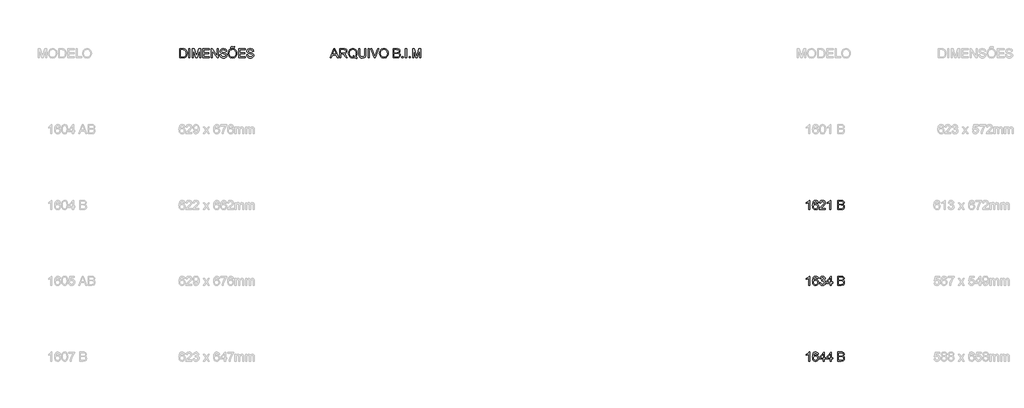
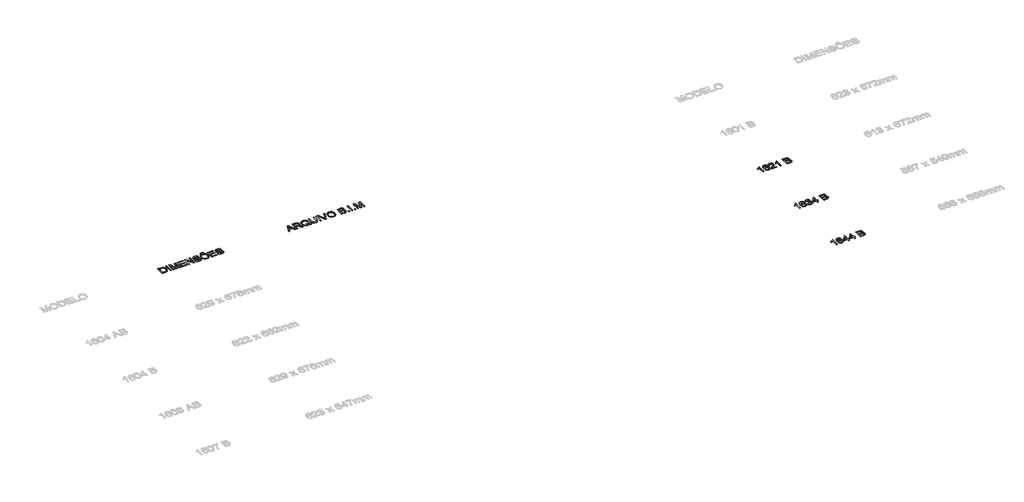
# One storey, part 33 of 39: 5 proxies.
"""IFC4 building model written with IfcOpenShell, lengths in millimetres."""

from ifc_helpers import new_model, si_unit, origin, origin_with_axes, place, context, project, spatial, polyline, outline, extrude, element, save

model = new_model("IFC4")

# Units and contexts
model_context = context("Model", 3, world=origin())
ifc_project = project(units=[si_unit("LENGTHUNIT", "METRE", prefix="MILLI")], contexts=[model_context])

# Site, building, storey
site = spatial("IfcSite", under=ifc_project)
building = spatial("IfcBuilding", under=site)
storey = spatial("IfcBuildingStorey", under=building, Name="Marelli - Linha PROFIT - Planta Baixa", Elevation=0.0)

# Proxies
placement = place(None, origin())
element("IfcBuildingElementProxy", 1, Name="300mm Arial", ObjectType="300mm Arial", at=placement, inside=storey, context=model_context, shape_type="SweptSolid", body=[
    extrude(outline(polyline([(-4550.1401811, 9219.4336799), (-4587.8112974, 9219.4336799), (-4587.8112974, 9454.2895457), (-4623.4958509, 9428.8688998), (-4663.15353, 9409.8494006), (-4663.15353, 9445.4603778), (-4633.5666205, 9461.5552151), (-4607.9344425, 9480.7034729), (-4587.7285239, 9501.0657413), (-4574.4203928, 9520.8026104), (-4550.1401811, 9520.8026104), (-4550.1401811, 9219.4336799)])), origin_with_axes(), (0.0, 0.0, 1.0), 10.0),
    extrude(outline(polyline([(-4267.6068088, 9440.7514882), (-4305.2779251, 9436.0425987), (-4311.347978, 9454.7126099), (-4319.5517465, 9467.4597211), (-4336.6398652, 9479.2135508), (-4357.2964392, 9483.1314941), (-4374.8076222, 9480.8506257), (-4391.2887356, 9474.0080206), (-4405.4429953, 9459.5962434), (-4417.003687, 9439.7582068), (-4424.8119824, 9411.6980077), (-4427.7090531, 9372.6197427), (-4412.5983001, 9390.2504873), (-4394.4893089, 9402.6757017), (-4374.3937549, 9410.0425387), (-4353.3233137, 9412.498151), (-4335.2235195, 9410.8196894), (-4318.5216769, 9405.7843046), (-4303.2177859, 9397.3919966), (-4289.3118465, 9385.6427654), (-4277.7557533, 9371.2355867), (-4269.5014011, 9354.8694365), (-4264.5487897, 9336.5443146), (-4262.8979192, 9316.2602211), (-4266.0065221, 9289.2852738), (-4275.3323307, 9264.2784951), (-4290.1027928, 9243.0700981), (-4309.5453562, 9227.4902956), (-4332.7771042, 9217.9161667), (-4358.91512, 9214.7247904), (-4381.3720165, 9216.8401119), (-4401.6538108, 9223.1860763), (-4419.7605027, 9233.7626836), (-4435.6920924, 9248.5699339), (-4448.6806261, 9268.2332266), (-4457.9581501, 9293.377961), (-4463.5246646, 9324.0041371), (-4465.3801694, 9360.1117549), (-4463.3200302, 9400.5925699), (-4457.1396127, 9435.1412878), (-4446.8389168, 9463.7579085), (-4432.4179426, 9486.442432), (-4416.7875563, 9501.4750101), (-4398.6647696, 9512.2125658), (-4378.0495823, 9518.6550992), (-4354.9419944, 9520.8026104), (-4321.8877972, 9515.4867156), (-4295.4186876, 9499.5390311), (-4276.8774351, 9474.2103557), (-4267.6068088, 9440.7514882)]), holes=[polyline([(-4427.7090531, 9316.8488323), (-4425.5293523, 9300.1561867), (-4418.9902498, 9284.2176993), (-4408.8367067, 9270.514095), (-4395.8136841, 9260.5260988), (-4380.0959259, 9254.4284547), (-4361.8581759, 9252.3959067), (-4336.9985501, 9256.6081555), (-4317.4548191, 9269.2449021), (-4304.7904814, 9289.1105298), (-4300.5690355, 9315.0094223), (-4304.7352991, 9339.8690481), (-4317.2340899, 9358.8241679), (-4337.1089147, 9370.826318), (-4363.4032803, 9374.8270347), (-4388.2261179, 9370.826318), (-4408.9838595, 9358.8241679), (-4423.0277547, 9340.3289006), (-4427.7090531, 9316.8488323)])]), origin_with_axes(), (0.0, 0.0, 1.0), 10.0),
    extrude(outline(polyline([(-4036.8712214, 9257.1047962), (-4036.8712214, 9219.4336799), (-4234.644582, 9219.4336799), (-4230.5978801, 9245.4061488), (-4221.3088597, 9265.7040379), (-4207.71562, 9285.3949217), (-4188.0523273, 9306.0055104), (-4160.5531482, 9329.0625145), (-4119.9021877, 9365.1701323), (-4095.5116114, 9391.8231829), (-4083.3163233, 9413.4546442), (-4079.2512273, 9434.4974943), (-4083.086397, 9453.3606436), (-4094.5919064, 9469.0416137), (-4112.2778334, 9479.609024), (-4134.6542557, 9483.1314941), (-4158.1527182, 9479.6917974), (-4176.4088622, 9469.3727075), (-4188.1902831, 9452.9835646), (-4192.2645762, 9431.3337092), (-4229.9356925, 9436.0425987), (-4220.8030219, 9472.4813103), (-4212.2566633, 9487.0172476), (-4201.0569559, 9499.0975727), (-4187.4614169, 9508.5935267), (-4171.7275638, 9515.376351), (-4133.8449153, 9520.8026104), (-4113.6550916, 9519.2942942), (-4095.6863554, 9514.7693457), (-4079.9387067, 9507.2277648), (-4066.4121456, 9496.6695515), (-4055.5481304, 9483.8764551), (-4047.7881196, 9469.6302249), (-4043.1321131, 9453.9308607), (-4041.5801109, 9436.7783627), (-4043.253974, 9418.761342), (-4048.2755633, 9401.057021), (-4057.1875046, 9383.0491973), (-4070.532424, 9364.1216686), (-4091.8052003, 9341.5245171), (-4124.5007127, 9312.5078247), (-4167.8372117, 9276.2714482), (-4184.8333599, 9257.1047962), (-4036.8712214, 9257.1047962)])), origin_with_axes(), (0.0, 0.0, 1.0), 10.0),
    extrude(outline(polyline([(-3857.933419, 9219.4336799), (-3895.6045353, 9219.4336799), (-3895.6045353, 9454.2895457), (-3931.2890888, 9428.8688998), (-3970.9467679, 9409.8494006), (-3970.9467679, 9445.4603778), (-3941.3598584, 9461.5552151), (-3915.7276804, 9480.7034729), (-3895.5217618, 9501.0657413), (-3882.2136306, 9520.8026104), (-3857.933419, 9520.8026104), (-3857.933419, 9219.4336799)])), origin_with_axes(), (0.0, 0.0, 1.0), 10.0),
    extrude(outline(polyline([(-3636.6156107, 9219.4336799), (-3636.6156107, 9520.8026104), (-3521.615699, 9520.8026104), (-3489.9870444, 9518.5861214), (-3465.2929655, 9511.9366543), (-3446.3654368, 9500.6886623), (-3432.0364331, 9484.6765985), (-3423.0141272, 9465.8410403), (-3420.0066919, 9446.1225654), (-3422.5358806, 9427.9767859), (-3430.1234468, 9410.9162584), (-3442.8245726, 9395.9894465), (-3460.6944406, 9384.2448138), (-3439.3480878, 9373.0979893), (-3423.5751472, 9356.1386293), (-3413.8354714, 9334.4887739), (-3410.5889128, 9309.2704632), (-3412.8054018, 9288.2552042), (-3419.4548689, 9268.7666555), (-3429.3784857, 9252.1935716), (-3441.417424, 9239.9247071), (-3456.160295, 9231.0403569), (-3474.1957098, 9224.6208161), (-3522.4986157, 9219.4336799), (-3636.6156107, 9219.4336799)]), holes=[polyline([(-3598.9444943, 9398.3714824), (-3530.1505612, 9398.3714824), (-3489.9778474, 9401.6088439), (-3475.9155581, 9407.1914532), (-3465.8080003, 9415.5515716), (-3459.7103562, 9426.5604403), (-3457.6778082, 9440.0893006), (-3459.5724005, 9453.2226879), (-3465.2561773, 9464.6638179), (-3474.4716213, 9473.5941533), (-3486.961215, 9479.1951567), (-3535.3744856, 9483.1314941), (-3598.9444943, 9483.1314941), (-3598.9444943, 9398.3714824)]), polyline([(-3598.9444943, 9257.1047962), (-3521.6892754, 9257.1047962), (-3493.7302437, 9258.5763242), (-3470.0754314, 9266.7800927), (-3454.4036584, 9283.5187235), (-3449.7959365, 9295.3461296), (-3448.2600291, 9308.9025812), (-3450.0626509, 9324.6479306), (-3455.4705162, 9338.185988), (-3464.9158865, 9348.7717924), (-3478.8310229, 9355.6603827), (-3498.5403008, 9359.4403702), (-3525.3680953, 9360.7003661), (-3598.9444943, 9360.7003661), (-3598.9444943, 9257.1047962)])]), origin_with_axes(), (0.0, 0.0, 1.0), 10.0),
])
element("IfcBuildingElementProxy", 2, Name="300mm Arial", ObjectType="300mm Arial", at=placement, inside=storey, context=model_context, shape_type="SweptSolid", body=[
    extrude(outline(polyline([(-4550.1401811, 6719.4336799), (-4587.8112974, 6719.4336799), (-4587.8112974, 6954.2895457), (-4623.4958509, 6928.8688998), (-4663.15353, 6909.8494006), (-4663.15353, 6945.4603778), (-4633.5666205, 6961.5552151), (-4607.9344425, 6980.7034729), (-4587.7285239, 7001.0657413), (-4574.4203928, 7020.8026104), (-4550.1401811, 7020.8026104), (-4550.1401811, 6719.4336799)])), origin_with_axes(), (0.0, 0.0, 1.0), 10.0),
    extrude(outline(polyline([(-4267.6068088, 6940.7514882), (-4305.2779251, 6936.0425987), (-4311.347978, 6954.7126099), (-4319.5517465, 6967.4597211), (-4336.6398652, 6979.2135508), (-4357.2964392, 6983.1314941), (-4374.8076222, 6980.8506257), (-4391.2887356, 6974.0080206), (-4405.4429953, 6959.5962434), (-4417.003687, 6939.7582068), (-4424.8119824, 6911.6980077), (-4427.7090531, 6872.6197427), (-4412.5983001, 6890.2504873), (-4394.4893089, 6902.6757017), (-4374.3937549, 6910.0425387), (-4353.3233137, 6912.498151), (-4335.2235195, 6910.8196894), (-4318.5216769, 6905.7843046), (-4303.2177859, 6897.3919966), (-4289.3118465, 6885.6427654), (-4277.7557533, 6871.2355867), (-4269.5014011, 6854.8694365), (-4264.5487897, 6836.5443146), (-4262.8979192, 6816.2602211), (-4266.0065221, 6789.2852738), (-4275.3323307, 6764.2784951), (-4290.1027928, 6743.0700981), (-4309.5453562, 6727.4902956), (-4332.7771042, 6717.9161667), (-4358.91512, 6714.7247904), (-4381.3720165, 6716.8401119), (-4401.6538108, 6723.1860763), (-4419.7605027, 6733.7626836), (-4435.6920924, 6748.5699339), (-4448.6806261, 6768.2332266), (-4457.9581501, 6793.377961), (-4463.5246646, 6824.0041371), (-4465.3801694, 6860.1117549), (-4463.3200302, 6900.5925699), (-4457.1396127, 6935.1412878), (-4446.8389168, 6963.7579085), (-4432.4179426, 6986.442432), (-4416.7875563, 7001.4750101), (-4398.6647696, 7012.2125658), (-4378.0495823, 7018.6550992), (-4354.9419944, 7020.8026104), (-4321.8877972, 7015.4867156), (-4295.4186876, 6999.5390311), (-4276.8774351, 6974.2103557), (-4267.6068088, 6940.7514882)]), holes=[polyline([(-4427.7090531, 6816.8488323), (-4425.5293523, 6800.1561867), (-4418.9902498, 6784.2176993), (-4408.8367067, 6770.514095), (-4395.8136841, 6760.5260988), (-4380.0959259, 6754.4284547), (-4361.8581759, 6752.3959067), (-4336.9985501, 6756.6081555), (-4317.4548191, 6769.2449021), (-4304.7904814, 6789.1105298), (-4300.5690355, 6815.0094223), (-4304.7352991, 6839.8690481), (-4317.2340899, 6858.8241679), (-4337.1089147, 6870.826318), (-4363.4032803, 6874.8270347), (-4388.2261179, 6870.826318), (-4408.9838595, 6858.8241679), (-4423.0277547, 6840.3289006), (-4427.7090531, 6816.8488323)])]), origin_with_axes(), (0.0, 0.0, 1.0), 10.0),
    extrude(outline(polyline([(-4229.9356925, 6799.4848021), (-4192.2645762, 6804.1936916), (-4183.8308814, 6780.5204852), (-4171.4792434, 6764.5360125), (-4154.6026569, 6755.4309332), (-4132.5941166, 6752.3959067), (-4106.7688005, 6756.5713673), (-4086.8295964, 6769.0977493), (-4074.0824852, 6787.7861546), (-4069.8334482, 6810.4476855), (-4074.045697, 6831.9595852), (-4086.6824436, 6849.4063888), (-4105.8123073, 6860.9670805), (-4129.5039078, 6864.8206444), (-4155.917835, 6860.7003661), (-4151.7239803, 6898.3714824), (-4145.6907156, 6897.930024), (-4123.1211552, 6900.6339567), (-4102.9428277, 6908.7457546), (-4088.7057945, 6922.4677531), (-4083.9601168, 6942.002287), (-4087.3998134, 6958.2718683), (-4097.7189034, 6971.4696348), (-4113.4642528, 6980.2160293), (-4133.1827277, 6983.1314941), (-4152.9379909, 6980.1884381), (-4169.0880105, 6971.3592702), (-4180.8786284, 6956.6439904), (-4187.5556866, 6936.0425987), (-4225.2268029, 6940.7514882), (-4214.1351608, 6974.5782377), (-4194.3982917, 6999.8333367), (-4167.3957533, 7015.5602919), (-4134.5071029, 7020.8026104), (-4110.8246995, 7018.2182394), (-4089.0736765, 7010.4651263), (-4070.7347591, 6998.23305), (-4057.2886721, 6982.2117891), (-4049.0389184, 6963.75331), (-4046.2890005, 6944.209579), (-4048.9009626, 6925.9994202), (-4056.7368491, 6909.4815186), (-4069.6862954, 6895.4100323), (-4087.6389367, 6884.5391194), (-4064.0577008, 6875.0109757), (-4046.5833061, 6858.7873797), (-4035.7675754, 6836.7512482), (-4032.1623319, 6809.7854979), (-4033.9649536, 6790.6740283), (-4039.372819, 6773.0708748), (-4048.3859279, 6756.9760375), (-4061.0042803, 6742.3895164), (-4076.3771492, 6730.2861988), (-4093.6538074, 6721.6409719), (-4112.8342549, 6716.4538358), (-4133.9184917, 6714.7247904), (-4152.9747791, 6716.2009169), (-4170.3388093, 6720.6292964), (-4186.0105823, 6728.0099289), (-4199.9900981, 6738.3428145), (-4211.7117381, 6751.0209477), (-4220.6098839, 6765.4373234), (-4226.6845353, 6781.5919415), (-4229.9356925, 6799.4848021)])), origin_with_axes(), (0.0, 0.0, 1.0), 10.0),
    extrude(outline(polyline([(-3876.7689771, 6719.4336799), (-3876.7689771, 6790.067023), (-4013.3267737, 6790.067023), (-4013.3267737, 6827.7381393), (-3867.351198, 7016.0937208), (-3839.0978608, 7016.0937208), (-3839.0978608, 6827.7381393), (-3801.4267445, 6827.7381393), (-3801.4267445, 6790.067023), (-3839.0978608, 6790.067023), (-3839.0978608, 6719.4336799), (-3876.7689771, 6719.4336799)]), holes=[polyline([(-3876.7689771, 6827.7381393), (-3876.7689771, 6944.1360026), (-3966.9736423, 6827.7381393), (-3876.7689771, 6827.7381393)])]), origin_with_axes(), (0.0, 0.0, 1.0), 10.0),
    extrude(outline(polyline([(-3636.6156107, 6719.4336799), (-3636.6156107, 7020.8026104), (-3521.615699, 7020.8026104), (-3489.9870444, 7018.5861214), (-3465.2929655, 7011.9366543), (-3446.3654368, 7000.6886623), (-3432.0364331, 6984.6765985), (-3423.0141272, 6965.8410403), (-3420.0066919, 6946.1225654), (-3422.5358806, 6927.9767859), (-3430.1234468, 6910.9162584), (-3442.8245726, 6895.9894465), (-3460.6944406, 6884.2448138), (-3439.3480878, 6873.0979893), (-3423.5751472, 6856.1386293), (-3413.8354714, 6834.4887739), (-3410.5889128, 6809.2704632), (-3412.8054018, 6788.2552042), (-3419.4548689, 6768.7666555), (-3429.3784857, 6752.1935716), (-3441.417424, 6739.9247071), (-3456.160295, 6731.0403569), (-3474.1957098, 6724.6208161), (-3522.4986157, 6719.4336799), (-3636.6156107, 6719.4336799)]), holes=[polyline([(-3598.9444943, 6898.3714824), (-3530.1505612, 6898.3714824), (-3489.9778474, 6901.6088439), (-3475.9155581, 6907.1914532), (-3465.8080003, 6915.5515716), (-3459.7103562, 6926.5604403), (-3457.6778082, 6940.0893006), (-3459.5724005, 6953.2226879), (-3465.2561773, 6964.6638179), (-3474.4716213, 6973.5941533), (-3486.961215, 6979.1951567), (-3535.3744856, 6983.1314941), (-3598.9444943, 6983.1314941), (-3598.9444943, 6898.3714824)]), polyline([(-3598.9444943, 6757.1047962), (-3521.6892754, 6757.1047962), (-3493.7302437, 6758.5763242), (-3470.0754314, 6766.7800927), (-3454.4036584, 6783.5187235), (-3449.7959365, 6795.3461296), (-3448.2600291, 6808.9025812), (-3450.0626509, 6824.6479306), (-3455.4705162, 6838.185988), (-3464.9158865, 6848.7717924), (-3478.8310229, 6855.6603827), (-3498.5403008, 6859.4403702), (-3525.3680953, 6860.7003661), (-3598.9444943, 6860.7003661), (-3598.9444943, 6757.1047962)])]), origin_with_axes(), (0.0, 0.0, 1.0), 10.0),
])
element("IfcBuildingElementProxy", 3, Name="300mm Arial", ObjectType="300mm Arial", at=placement, inside=storey, context=model_context, shape_type="SweptSolid", body=[
    extrude(outline(polyline([(-4550.1401811, 4219.4336799), (-4587.8112974, 4219.4336799), (-4587.8112974, 4454.2895457), (-4623.4958509, 4428.8688998), (-4663.15353, 4409.8494006), (-4663.15353, 4445.4603778), (-4633.5666205, 4461.5552151), (-4607.9344425, 4480.7034729), (-4587.7285239, 4501.0657413), (-4574.4203928, 4520.8026104), (-4550.1401811, 4520.8026104), (-4550.1401811, 4219.4336799)])), origin_with_axes(), (0.0, 0.0, 1.0), 10.0),
    extrude(outline(polyline([(-4267.6068088, 4440.7514882), (-4305.2779251, 4436.0425987), (-4311.347978, 4454.7126099), (-4319.5517465, 4467.4597211), (-4336.6398652, 4479.2135508), (-4357.2964392, 4483.1314941), (-4374.8076222, 4480.8506257), (-4391.2887356, 4474.0080206), (-4405.4429953, 4459.5962434), (-4417.003687, 4439.7582068), (-4424.8119824, 4411.6980077), (-4427.7090531, 4372.6197427), (-4412.5983001, 4390.2504873), (-4394.4893089, 4402.6757017), (-4374.3937549, 4410.0425387), (-4353.3233137, 4412.498151), (-4335.2235195, 4410.8196894), (-4318.5216769, 4405.7843046), (-4303.2177859, 4397.3919966), (-4289.3118465, 4385.6427654), (-4277.7557533, 4371.2355867), (-4269.5014011, 4354.8694365), (-4264.5487897, 4336.5443146), (-4262.8979192, 4316.2602211), (-4266.0065221, 4289.2852738), (-4275.3323307, 4264.2784951), (-4290.1027928, 4243.0700981), (-4309.5453562, 4227.4902956), (-4332.7771042, 4217.9161667), (-4358.91512, 4214.7247904), (-4381.3720165, 4216.8401119), (-4401.6538108, 4223.1860763), (-4419.7605027, 4233.7626836), (-4435.6920924, 4248.5699339), (-4448.6806261, 4268.2332266), (-4457.9581501, 4293.377961), (-4463.5246646, 4324.0041371), (-4465.3801694, 4360.1117549), (-4463.3200302, 4400.5925699), (-4457.1396127, 4435.1412878), (-4446.8389168, 4463.7579085), (-4432.4179426, 4486.442432), (-4416.7875563, 4501.4750101), (-4398.6647696, 4512.2125658), (-4378.0495823, 4518.6550992), (-4354.9419944, 4520.8026104), (-4321.8877972, 4515.4867156), (-4295.4186876, 4499.5390311), (-4276.8774351, 4474.2103557), (-4267.6068088, 4440.7514882)]), holes=[polyline([(-4427.7090531, 4316.8488323), (-4425.5293523, 4300.1561867), (-4418.9902498, 4284.2176993), (-4408.8367067, 4270.514095), (-4395.8136841, 4260.5260988), (-4380.0959259, 4254.4284547), (-4361.8581759, 4252.3959067), (-4336.9985501, 4256.6081555), (-4317.4548191, 4269.2449021), (-4304.7904814, 4289.1105298), (-4300.5690355, 4315.0094223), (-4304.7352991, 4339.8690481), (-4317.2340899, 4358.8241679), (-4337.1089147, 4370.826318), (-4363.4032803, 4374.8270347), (-4388.2261179, 4370.826318), (-4408.9838595, 4358.8241679), (-4423.0277547, 4340.3289006), (-4427.7090531, 4316.8488323)])]), origin_with_axes(), (0.0, 0.0, 1.0), 10.0),
    extrude(outline(polyline([(-4107.5045645, 4219.4336799), (-4107.5045645, 4290.067023), (-4244.0623611, 4290.067023), (-4244.0623611, 4327.7381393), (-4098.0867854, 4516.0937208), (-4069.8334482, 4516.0937208), (-4069.8334482, 4327.7381393), (-4032.1623319, 4327.7381393), (-4032.1623319, 4290.067023), (-4069.8334482, 4290.067023), (-4069.8334482, 4219.4336799), (-4107.5045645, 4219.4336799)]), holes=[polyline([(-4107.5045645, 4327.7381393), (-4107.5045645, 4444.1360026), (-4197.7092297, 4327.7381393), (-4107.5045645, 4327.7381393)])]), origin_with_axes(), (0.0, 0.0, 1.0), 10.0),
    extrude(outline(polyline([(-3876.7689771, 4219.4336799), (-3876.7689771, 4290.067023), (-4013.3267737, 4290.067023), (-4013.3267737, 4327.7381393), (-3867.351198, 4516.0937208), (-3839.0978608, 4516.0937208), (-3839.0978608, 4327.7381393), (-3801.4267445, 4327.7381393), (-3801.4267445, 4290.067023), (-3839.0978608, 4290.067023), (-3839.0978608, 4219.4336799), (-3876.7689771, 4219.4336799)]), holes=[polyline([(-3876.7689771, 4327.7381393), (-3876.7689771, 4444.1360026), (-3966.9736423, 4327.7381393), (-3876.7689771, 4327.7381393)])]), origin_with_axes(), (0.0, 0.0, 1.0), 10.0),
    extrude(outline(polyline([(-3636.6156107, 4219.4336799), (-3636.6156107, 4520.8026104), (-3521.615699, 4520.8026104), (-3489.9870444, 4518.5861214), (-3465.2929655, 4511.9366543), (-3446.3654368, 4500.6886623), (-3432.0364331, 4484.6765985), (-3423.0141272, 4465.8410403), (-3420.0066919, 4446.1225654), (-3422.5358806, 4427.9767859), (-3430.1234468, 4410.9162584), (-3442.8245726, 4395.9894465), (-3460.6944406, 4384.2448138), (-3439.3480878, 4373.0979893), (-3423.5751472, 4356.1386293), (-3413.8354714, 4334.4887739), (-3410.5889128, 4309.2704632), (-3412.8054018, 4288.2552042), (-3419.4548689, 4268.7666555), (-3429.3784857, 4252.1935716), (-3441.417424, 4239.9247071), (-3456.160295, 4231.0403569), (-3474.1957098, 4224.6208161), (-3522.4986157, 4219.4336799), (-3636.6156107, 4219.4336799)]), holes=[polyline([(-3598.9444943, 4398.3714824), (-3530.1505612, 4398.3714824), (-3489.9778474, 4401.6088439), (-3475.9155581, 4407.1914532), (-3465.8080003, 4415.5515716), (-3459.7103562, 4426.5604403), (-3457.6778082, 4440.0893006), (-3459.5724005, 4453.2226879), (-3465.2561773, 4464.6638179), (-3474.4716213, 4473.5941533), (-3486.961215, 4479.1951567), (-3535.3744856, 4483.1314941), (-3598.9444943, 4483.1314941), (-3598.9444943, 4398.3714824)]), polyline([(-3598.9444943, 4257.1047962), (-3521.6892754, 4257.1047962), (-3493.7302437, 4258.5763242), (-3470.0754314, 4266.7800927), (-3454.4036584, 4283.5187235), (-3449.7959365, 4295.3461296), (-3448.2600291, 4308.9025812), (-3450.0626509, 4324.6479306), (-3455.4705162, 4338.185988), (-3464.9158865, 4348.7717924), (-3478.8310229, 4355.6603827), (-3498.5403008, 4359.4403702), (-3525.3680953, 4360.7003661), (-3598.9444943, 4360.7003661), (-3598.9444943, 4257.1047962)])]), origin_with_axes(), (0.0, 0.0, 1.0), 10.0),
])
element("IfcBuildingElementProxy", 4, Name="300mm Arial", ObjectType="300mm Arial", at=placement, inside=storey, context=model_context, shape_type="SweptSolid", body=[
    extrude(outline(polyline([(-25315.334731, 14219.4336799), (-25315.334731, 14520.8026104), (-25211.3712792, 14520.8026104), (-25157.5869315, 14516.4616028), (-25133.5642372, 14508.0922874), (-25113.2939393, 14494.9037179), (-25092.4534243, 14471.9478814), (-25077.6093858, 14443.4002386), (-25068.7250356, 14409.8126124), (-25065.7635855, 14371.7368259), (-25067.7685424, 14339.3908015), (-25073.783413, 14310.9259321), (-25082.9436747, 14286.6917057), (-25094.3848047, 14267.0376101), (-25107.5549802, 14251.522187), (-25121.902378, 14239.7039779), (-25138.3742943, 14230.9391893), (-25157.9180253, 14224.5840279), (-25206.3680841, 14219.4336799), (-25315.334731, 14219.4336799)]), holes=[polyline([(-25277.6636147, 14257.1047962), (-25211.0033972, 14257.1047962), (-25183.4306417, 14258.4659596), (-25162.5165502, 14262.5494498), (-25146.7344127, 14269.1161434), (-25134.5575186, 14277.9269172), (-25121.4701166, 14294.2332866), (-25111.6384703, 14315.3405161), (-25105.4856439, 14341.3405761), (-25103.4347018, 14372.3254371), (-25107.4538126, 14413.3810678), (-25119.511145, 14443.6945442), (-25137.3258306, 14464.5166651), (-25158.6170011, 14477.0982294), (-25180.2852506, 14481.6231779), (-25212.0334668, 14483.1314941), (-25277.6636147, 14483.1314941), (-25277.6636147, 14257.1047962)])]), origin_with_axes(), (0.0, 0.0, 1.0), 10.0),
    extrude(outline(polyline([(-25009.2569111, 14219.4336799), (-25009.2569111, 14520.8026104), (-24971.5857948, 14520.8026104), (-24971.5857948, 14219.4336799), (-25009.2569111, 14219.4336799)])), origin_with_axes(), (0.0, 0.0, 1.0), 10.0),
    extrude(outline(polyline([(-24896.2435621, 14219.4336799), (-24896.2435621, 14520.8026104), (-24831.4227546, 14520.8026104), (-24769.7657322, 14308.3875464), (-24757.3313208, 14264.0209777), (-24743.8668397, 14312.0663663), (-24683.2398869, 14520.8026104), (-24618.4190794, 14520.8026104), (-24618.4190794, 14219.4336799), (-24656.0901957, 14219.4336799), (-24656.0901957, 14483.1314941), (-24731.8003103, 14219.4336799), (-24782.8623312, 14219.4336799), (-24858.5724458, 14483.1314941), (-24858.5724458, 14219.4336799), (-24896.2435621, 14219.4336799)])), origin_with_axes(), (0.0, 0.0, 1.0), 10.0),
    extrude(outline(polyline([(-24552.4946258, 14219.4336799), (-24552.4946258, 14520.8026104), (-24335.8857071, 14520.8026104), (-24335.8857071, 14483.1314941), (-24514.8235095, 14483.1314941), (-24514.8235095, 14393.6625928), (-24345.3034862, 14393.6625928), (-24345.3034862, 14355.9914765), (-24514.8235095, 14355.9914765), (-24514.8235095, 14257.1047962), (-24331.1768175, 14257.1047962), (-24331.1768175, 14219.4336799), (-24552.4946258, 14219.4336799)])), origin_with_axes(), (0.0, 0.0, 1.0), 10.0),
    extrude(outline(polyline([(-24274.6701431, 14219.4336799), (-24274.6701431, 14520.8026104), (-24234.3502764, 14520.8026104), (-24076.8967825, 14282.0471955), (-24076.8967825, 14520.8026104), (-24039.2256662, 14520.8026104), (-24039.2256662, 14219.4336799), (-24079.5455328, 14219.4336799), (-24236.9990268, 14458.2626712), (-24236.9990268, 14219.4336799), (-24274.6701431, 14219.4336799)])), origin_with_axes(), (0.0, 0.0, 1.0), 10.0),
    extrude(outline(polyline([(-23987.4278813, 14323.0292498), (-23949.7567649, 14323.0292498), (-23945.4341515, 14302.1243554), (-23937.6166591, 14285.3213453), (-23925.421371, 14271.9856229), (-23907.9653703, 14261.482592), (-23886.6282146, 14254.667578), (-23862.7894613, 14252.3959067), (-23841.8017935, 14254.115755), (-23823.4260878, 14259.2753), (-23808.536064, 14267.4422803), (-23798.0054419, 14278.1844346), (-23791.742251, 14290.5176784), (-23789.6545206, 14303.4579276), (-23791.2180191, 14316.067083), (-23795.9085146, 14326.9655871), (-23805.4366582, 14336.2638046), (-23821.5131014, 14344.0720999), (-23876.3643069, 14358.4562859), (-23912.3707572, 14367.9752325), (-23935.4093671, 14377.0343267), (-23954.1621518, 14389.7078614), (-23967.4518889, 14405.0669347), (-23975.3705489, 14422.7804528), (-23978.0101022, 14442.5173218), (-23974.7451495, 14464.5810445), (-23964.9502913, 14485.154845), (-23948.8830452, 14502.5924516), (-23926.8009284, 14515.2475923), (-23900.2950307, 14522.945523), (-23870.9564416, 14525.5114999), (-23839.1714372, 14522.8259614), (-23811.3595584, 14514.7693457), (-23788.5140865, 14501.5071997), (-23771.6283029, 14483.2050705), (-23760.9413309, 14461.0033921), (-23756.6922939, 14436.0425987), (-23794.3634102, 14436.0425987), (-23801.2795917, 14458.5201886), (-23815.7005659, 14474.7437846), (-23838.2333381, 14484.5662339), (-23869.4849136, 14487.8403836), (-23901.4722531, 14484.6030221), (-23923.4164141, 14474.8909374), (-23936.1083429, 14460.5987219), (-23940.3389859, 14443.6209678), (-23937.3407476, 14429.1448113), (-23928.3460328, 14417.5013461), (-23907.0824535, 14407.0902857), (-23866.8361632, 14396.458496), (-23825.302286, 14386.3601352), (-23800.1759457, 14377.5493615), (-23778.7008342, 14363.8825453), (-23763.71884, 14347.0151559), (-23754.9172633, 14327.131134), (-23751.9834043, 14304.4144208), (-23755.3587216, 14281.1918699), (-23765.4846736, 14259.3488764), (-23781.9473928, 14240.5501065), (-23804.3330123, 14226.460226), (-23831.2527773, 14217.6586493), (-23861.3179333, 14214.7247904), (-23898.2256945, 14217.8885756), (-23928.6035502, 14227.379931), (-23952.8009885, 14243.235645), (-23971.1674971, 14265.4925057), (-23982.958115, 14292.6054088), (-23987.4278813, 14323.0292498)])), origin_with_axes(), (0.0, 0.0, 1.0), 10.0),
    extrude(outline(polyline([(-23709.6033985, 14366.1450196), (-23707.0926039, 14401.4938808), (-23699.56022, 14432.786843), (-23687.0062469, 14460.0239063), (-23669.4306846, 14483.2050705), (-23647.8865953, 14501.7141334), (-23623.4270411, 14514.9348926), (-23596.0520222, 14522.8673481), (-23565.7615384, 14525.5114999), (-23526.232618, 14520.545093), (-23490.7871878, 14505.6458722), (-23461.3566282, 14481.8623012), (-23439.8723196, 14450.2428437), (-23426.7389324, 14412.31421), (-23422.3611367, 14369.6031104), (-23426.9688587, 14326.3217936), (-23440.7920246, 14287.859731), (-23463.0672794, 14256.1850913), (-23493.0312679, 14233.266043), (-23528.1731955, 14219.3601035), (-23565.9822676, 14214.7247904), (-23606.1181933, 14219.8475472), (-23641.7659586, 14235.2158175), (-23671.1229418, 14259.4408469), (-23692.3865211, 14291.1338808), (-23705.2991792, 14327.6001836), (-23709.6033985, 14366.1450196)]), holes=[polyline([(-23671.9322822, 14365.7771376), (-23670.0491862, 14340.8025487), (-23664.3998983, 14318.6330599), (-23654.9844185, 14299.2686714), (-23641.8027468, 14282.7093831), (-23625.7791866, 14269.4472372), (-23607.8380416, 14259.9742758), (-23587.9793116, 14254.290499), (-23566.2029968, 14252.3959067), (-23544.0542014, 14254.3088931), (-23523.9609467, 14260.0478522), (-23505.9232326, 14269.6127841), (-23489.9410592, 14283.0036887), (-23476.8559565, 14299.9124649), (-23467.5094545, 14320.0310115), (-23461.9015534, 14343.3593285), (-23460.032253, 14369.897416), (-23463.2328263, 14403.2459188), (-23472.8345464, 14432.0694731), (-23488.5890928, 14455.641512), (-23510.2481453, 14473.2354684), (-23536.376964, 14484.1891548), (-23565.5408092, 14487.8403836), (-23586.5606667, 14486.0814478), (-23606.063011, 14480.8046405), (-23624.047842, 14472.0099615), (-23640.5151598, 14459.697411), (-23654.2601508, 14443.2737792), (-23664.0780016, 14422.1458563), (-23669.968712, 14396.3136425), (-23671.9322822, 14365.7771376)])]), origin_with_axes(), (0.0, 0.0, 1.0), 10.0),
    extrude(outline(polyline([(-23634.2611659, 14539.6381685), (-23631.4100804, 14562.7963401), (-23622.5625184, 14580.7673756), (-23609.2267961, 14592.3004761), (-23592.616924, 14596.144843), (-23578.7109846, 14593.1098165), (-23562.4506004, 14584.0047372), (-23547.2202858, 14577.3092848), (-23539.2372465, 14581.0984694), (-23535.3744856, 14596.144843), (-23502.4122588, 14596.144843), (-23505.6956056, 14571.4231729), (-23514.3684237, 14553.7648371), (-23527.2718846, 14543.1698357), (-23543.2471603, 14539.6381685), (-23557.2450702, 14542.5076481), (-23573.0456019, 14551.1160868), (-23588.9381041, 14558.4737267), (-23597.9144248, 14553.6912607), (-23601.2989391, 14539.6381685), (-23634.2611659, 14539.6381685)])), origin_with_axes(), (0.0, 0.0, 1.0), 10.0),
    extrude(outline(polyline([(-23370.5633517, 14219.4336799), (-23370.5633517, 14520.8026104), (-23153.954433, 14520.8026104), (-23153.954433, 14483.1314941), (-23332.8922354, 14483.1314941), (-23332.8922354, 14393.6625928), (-23163.3722121, 14393.6625928), (-23163.3722121, 14355.9914765), (-23332.8922354, 14355.9914765), (-23332.8922354, 14257.1047962), (-23149.2455434, 14257.1047962), (-23149.2455434, 14219.4336799), (-23370.5633517, 14219.4336799)])), origin_with_axes(), (0.0, 0.0, 1.0), 10.0),
    extrude(outline(polyline([(-23106.8655376, 14323.0292498), (-23069.1944213, 14323.0292498), (-23064.8718078, 14302.1243554), (-23057.0543155, 14285.3213453), (-23044.8590273, 14271.9856229), (-23027.4030266, 14261.482592), (-23006.0658709, 14254.667578), (-22982.2271176, 14252.3959067), (-22961.2394498, 14254.115755), (-22942.8637441, 14259.2753), (-22927.9737204, 14267.4422803), (-22917.4430983, 14278.1844346), (-22911.1799073, 14290.5176784), (-22909.092177, 14303.4579276), (-22910.6556755, 14316.067083), (-22915.3461709, 14326.9655871), (-22924.8743146, 14336.2638046), (-22940.9507578, 14344.0720999), (-22995.8019633, 14358.4562859), (-23031.8084135, 14367.9752325), (-23054.8470235, 14377.0343267), (-23073.5998082, 14389.7078614), (-23086.8895453, 14405.0669347), (-23094.8082052, 14422.7804528), (-23097.4477585, 14442.5173218), (-23094.1828058, 14464.5810445), (-23084.3879477, 14485.154845), (-23068.3207016, 14502.5924516), (-23046.2385848, 14515.2475923), (-23019.732687, 14522.945523), (-22990.3940979, 14525.5114999), (-22958.6090935, 14522.8259614), (-22930.7972147, 14514.7693457), (-22907.9517428, 14501.5071997), (-22891.0659592, 14483.2050705), (-22880.3789873, 14461.0033921), (-22876.1299502, 14436.0425987), (-22913.8010665, 14436.0425987), (-22920.717248, 14458.5201886), (-22935.1382223, 14474.7437846), (-22957.6709945, 14484.5662339), (-22988.9225699, 14487.8403836), (-23020.9099094, 14484.6030221), (-23042.8540704, 14474.8909374), (-23055.5459993, 14460.5987219), (-23059.7766422, 14443.6209678), (-23056.778404, 14429.1448113), (-23047.7836892, 14417.5013461), (-23026.5201099, 14407.0902857), (-22986.2738196, 14396.458496), (-22944.7399423, 14386.3601352), (-22919.6136021, 14377.5493615), (-22898.1384906, 14363.8825453), (-22883.1564963, 14347.0151559), (-22874.3549196, 14327.131134), (-22871.4210607, 14304.4144208), (-22874.796378, 14281.1918699), (-22884.9223299, 14259.3488764), (-22901.3850492, 14240.5501065), (-22923.7706686, 14226.460226), (-22950.6904336, 14217.6586493), (-22980.7555897, 14214.7247904), (-23017.6633508, 14217.8885756), (-23048.0412066, 14227.379931), (-23072.2386448, 14243.235645), (-23090.6051534, 14265.4925057), (-23102.3957714, 14292.6054088), (-23106.8655376, 14323.0292498)])), origin_with_axes(), (0.0, 0.0, 1.0), 10.0),
])
element("IfcBuildingElementProxy", 5, Name="300mm Arial", ObjectType="300mm Arial", at=placement, inside=storey, context=model_context, shape_type="SweptSolid", body=[
    extrude(outline(polyline([(-20350.420501, 14219.4336799), (-20230.1230886, 14520.8026104), (-20198.0437786, 14520.8026104), (-20077.7463662, 14219.4336799), (-20117.551198, 14219.4336799), (-20152.0585292, 14313.6114707), (-20276.1819143, 14313.6114707), (-20310.6156691, 14219.4336799), (-20350.420501, 14219.4336799)]), holes=[polyline([(-20262.3495513, 14351.282587), (-20165.8173158, 14351.282587), (-20192.967007, 14425.3740208), (-20214.0834336, 14483.1314941), (-20232.8454153, 14431.8487439), (-20262.3495513, 14351.282587)])]), origin_with_axes(), (0.0, 0.0, 1.0), 10.0),
    extrude(outline(polyline([(-20037.5000759, 14219.4336799), (-20037.5000759, 14520.8026104), (-19907.6377316, 14520.8026104), (-19872.7349273, 14518.7700624), (-19847.3418726, 14512.6724183), (-19828.7822259, 14501.4152292), (-19814.3796458, 14483.9040463), (-19805.1366107, 14462.1898115), (-19802.055599, 14438.3234671), (-19807.1599616, 14408.6353901), (-19822.4730497, 14384.0240846), (-19834.0728289, 14373.9947017), (-19848.4547156, 14365.9794727), (-19885.5648119, 14355.9914765), (-19864.1540798, 14339.8782452), (-19833.6198742, 14301.1034829), (-19783.3671936, 14219.4336799), (-19827.145151, 14219.4336799), (-19866.3613717, 14281.9000427), (-19894.6882854, 14323.249979), (-19914.5907013, 14342.7845129), (-19932.5065545, 14349.9582118), (-19954.358745, 14351.282587), (-19999.8289596, 14351.282587), (-19999.8289596, 14219.4336799), (-20037.5000759, 14219.4336799)]), holes=[polyline([(-19999.8289596, 14388.9537033), (-19915.5104063, 14388.9537033), (-19891.2945739, 14390.2872755), (-19872.505001, 14394.2879922), (-19858.3599383, 14401.2225678), (-19848.0776366, 14411.3577168), (-19841.8144456, 14423.6173843), (-19839.7267153, 14436.9255155), (-19843.7090379, 14455.3012211), (-19855.6560057, 14470.1084714), (-19876.2114121, 14479.8757384), (-19906.0190508, 14483.1314941), (-19999.8289596, 14483.1314941), (-19999.8289596, 14388.9537033)])]), origin_with_axes(), (0.0, 0.0, 1.0), 10.0),
    extrude(outline(polyline([(-19509.7365656, 14255.5596919), (-19485.4011716, 14236.963257), (-19463.0155522, 14224.1425695), (-19473.1690953, 14196.5514198), (-19504.2367298, 14210.9539999), (-19535.1939997, 14231.794515), (-19570.0508187, 14218.9922215), (-19608.4025167, 14214.7247904), (-19646.9381557, 14219.6452121), (-19681.7581865, 14234.4064771), (-19710.9220317, 14258.0796835), (-19732.4891137, 14289.7359292), (-19745.815639, 14327.6369718), (-19750.257814, 14370.0445688), (-19745.824836, 14412.488954), (-19732.5259019, 14450.9418195), (-19711.0415934, 14483.0487206), (-19682.0524921, 14506.4552126), (-19647.36122, 14520.7474281), (-19608.7703987, 14525.5114999), (-19569.8760748, 14520.6370635), (-19535.0100587, 14506.0137542), (-19506.0669427, 14482.6164593), (-19484.9413191, 14451.4200661), (-19472.0286611, 14414.0800436), (-19467.7244417, 14372.2518607), (-19470.3364039, 14337.4686181), (-19478.1722904, 14306.4009836), (-19491.2872835, 14279.0857454), (-19509.7365656, 14255.5596919)]), holes=[polyline([(-19598.0282444, 14305.6652196), (-19566.3536047, 14293.6906607), (-19540.785806, 14277.0440004), (-19525.3025725, 14294.5183951), (-19514.24312, 14315.8923391), (-19507.6074486, 14341.1658321), (-19505.3955581, 14370.3388744), (-19508.522555, 14403.4942392), (-19517.9035459, 14432.1798377), (-19533.3086044, 14455.6691031), (-19554.5078044, 14473.2354684), (-19580.066406, 14484.1891548), (-19608.5496695, 14487.8403836), (-19630.033978, 14485.9940758), (-19649.6053002, 14480.4551526), (-19667.2636359, 14471.2236137), (-19683.0089853, 14458.2994594), (-19695.9492345, 14441.7102807), (-19705.1922696, 14421.4836687), (-19710.7380907, 14397.6196236), (-19712.5866977, 14370.1181452), (-19710.7587841, 14343.3340366), (-19705.2750431, 14319.8562676), (-19696.1354748, 14299.6848379), (-19683.3400791, 14282.8197477), (-19667.7027951, 14269.5093173), (-19650.0375615, 14260.001867), (-19630.3443785, 14254.2973968), (-19608.6232459, 14252.3959067), (-19587.7091545, 14254.3272872), (-19568.08265, 14260.1214286), (-19587.3780607, 14270.146213), (-19607.7403291, 14276.8232712), (-19598.0282444, 14305.6652196)])]), origin_with_axes(), (0.0, 0.0, 1.0), 10.0),
    extrude(outline(polyline([(-19213.4444067, 14520.8026104), (-19175.7732904, 14520.8026104), (-19175.7732904, 14346.9415795), (-19178.3300702, 14306.2262396), (-19186.0004098, 14274.8734966), (-19200.3294136, 14250.6852554), (-19222.8621858, 14231.4634212), (-19253.6539088, 14218.9094481), (-19292.7597648, 14214.7247904), (-19331.0102953, 14218.3668221), (-19361.5904861, 14229.2929174), (-19384.5095344, 14247.1259971), (-19399.7766372, 14271.4889822), (-19408.3574848, 14304.1661005), (-19411.2177673, 14346.9415795), (-19411.2177673, 14520.8026104), (-19373.546651, 14520.8026104), (-19373.546651, 14348.2659546), (-19371.6888469, 14314.411614), (-19366.1154347, 14290.8395752), (-19356.0170739, 14274.5148117), (-19340.5844242, 14262.402297), (-19320.4612791, 14254.8975043), (-19296.291432, 14252.3959067), (-19257.9765222, 14257.3439195), (-19243.6337229, 14263.5289356), (-19232.500694, 14272.187958), (-19224.1635683, 14284.3648521), (-19218.2084785, 14301.1034829), (-19213.4444067, 14348.2659546), (-19213.4444067, 14520.8026104)])), origin_with_axes(), (0.0, 0.0, 1.0), 10.0),
    extrude(outline(polyline([(-19105.1399473, 14219.4336799), (-19105.1399473, 14520.8026104), (-19067.468831, 14520.8026104), (-19067.468831, 14219.4336799), (-19105.1399473, 14219.4336799)])), origin_with_axes(), (0.0, 0.0, 1.0), 10.0),
    extrude(outline(polyline([(-18903.0991556, 14219.4336799), (-19023.028686, 14520.8026104), (-18982.7088193, 14520.8026104), (-18902.436968, 14303.6786568), (-18886.1765838, 14254.7503515), (-18870.1369288, 14303.6786568), (-18789.6443482, 14520.8026104), (-18749.3244816, 14520.8026104), (-18864.1772405, 14219.4336799), (-18903.0991556, 14219.4336799)])), origin_with_axes(), (0.0, 0.0, 1.0), 10.0),
    extrude(outline(polyline([(-18728.4287842, 14366.1450196), (-18725.9179896, 14401.4938808), (-18718.3856058, 14432.786843), (-18705.8316327, 14460.0239063), (-18688.2560704, 14483.2050705), (-18666.711981, 14501.7141334), (-18642.2524269, 14514.9348926), (-18614.8774079, 14522.8673481), (-18584.5869241, 14525.5114999), (-18545.0580037, 14520.545093), (-18509.6125735, 14505.6458722), (-18480.1820139, 14481.8623012), (-18458.6977054, 14450.2428437), (-18445.5643181, 14412.31421), (-18441.1865224, 14369.6031104), (-18445.7942444, 14326.3217936), (-18459.6174104, 14287.859731), (-18481.8926652, 14256.1850913), (-18511.8566537, 14233.266043), (-18546.9985813, 14219.3601035), (-18584.8076533, 14214.7247904), (-18624.943579, 14219.8475472), (-18660.5913443, 14235.2158175), (-18689.9483275, 14259.4408469), (-18711.2119069, 14291.1338808), (-18724.1245649, 14327.6001836), (-18728.4287842, 14366.1450196)]), holes=[polyline([(-18690.7576679, 14365.7771376), (-18688.874572, 14340.8025487), (-18683.2252841, 14318.6330599), (-18673.8098043, 14299.2686714), (-18660.6281325, 14282.7093831), (-18644.6045724, 14269.4472372), (-18626.6634273, 14259.9742758), (-18606.8046974, 14254.290499), (-18585.0283825, 14252.3959067), (-18562.8795871, 14254.3088931), (-18542.7863324, 14260.0478522), (-18524.7486183, 14269.6127841), (-18508.7664449, 14283.0036887), (-18495.6813422, 14299.9124649), (-18486.3348403, 14320.0310115), (-18480.7269391, 14343.3593285), (-18478.8576387, 14369.897416), (-18482.0582121, 14403.2459188), (-18491.6599321, 14432.0694731), (-18507.4144786, 14455.641512), (-18529.0735311, 14473.2354684), (-18555.2023498, 14484.1891548), (-18584.3661949, 14487.8403836), (-18605.3860524, 14486.0814478), (-18624.8883967, 14480.8046405), (-18642.8732277, 14472.0099615), (-18659.3405455, 14459.697411), (-18673.0855366, 14443.2737792), (-18682.9033873, 14422.1458563), (-18688.7940978, 14396.3136425), (-18690.7576679, 14365.7771376)])]), origin_with_axes(), (0.0, 0.0, 1.0), 10.0),
    extrude(outline(polyline([(-18271.666499, 14219.4336799), (-18271.666499, 14520.8026104), (-18156.6665873, 14520.8026104), (-18125.0379328, 14518.5861214), (-18100.3438539, 14511.9366543), (-18081.4163252, 14500.6886623), (-18067.0873215, 14484.6765985), (-18058.0650156, 14465.8410403), (-18055.0575803, 14446.1225654), (-18057.586769, 14427.9767859), (-18065.1743351, 14410.9162584), (-18077.875461, 14395.9894465), (-18095.7453289, 14384.2448138), (-18074.3989762, 14373.0979893), (-18058.6260356, 14356.1386293), (-18048.8863598, 14334.4887739), (-18045.6398012, 14309.2704632), (-18047.8562902, 14288.2552042), (-18054.5057573, 14268.7666555), (-18064.4293741, 14252.1935716), (-18076.4683124, 14239.9247071), (-18091.2111833, 14231.0403569), (-18109.2465982, 14224.6208161), (-18157.5495041, 14219.4336799), (-18271.666499, 14219.4336799)]), holes=[polyline([(-18233.9953827, 14398.3714824), (-18165.2014496, 14398.3714824), (-18125.0287358, 14401.6088439), (-18110.9664465, 14407.1914532), (-18100.8588887, 14415.5515716), (-18094.7612446, 14426.5604403), (-18092.7286966, 14440.0893006), (-18094.6232889, 14453.2226879), (-18100.3070657, 14464.6638179), (-18109.5225097, 14473.5941533), (-18122.0121034, 14479.1951567), (-18170.425374, 14483.1314941), (-18233.9953827, 14483.1314941), (-18233.9953827, 14398.3714824)]), polyline([(-18233.9953827, 14257.1047962), (-18156.7401637, 14257.1047962), (-18128.7811321, 14258.5763242), (-18105.1263198, 14266.7800927), (-18089.4545468, 14283.5187235), (-18084.8468248, 14295.3461296), (-18083.3109175, 14308.9025812), (-18085.1135393, 14324.6479306), (-18090.5214046, 14338.185988), (-18099.9667748, 14348.7717924), (-18113.8819113, 14355.6603827), (-18133.5911892, 14359.4403702), (-18160.4189837, 14360.7003661), (-18233.9953827, 14360.7003661), (-18233.9953827, 14257.1047962)])]), origin_with_axes(), (0.0, 0.0, 1.0), 10.0),
    extrude(outline(polyline([(-17989.1331267, 14219.4336799), (-17989.1331267, 14257.1047962), (-17951.4620104, 14257.1047962), (-17951.4620104, 14219.4336799), (-17989.1331267, 14219.4336799)])), origin_with_axes(), (0.0, 0.0, 1.0), 10.0),
    extrude(outline(polyline([(-17871.4108883, 14219.4336799), (-17871.4108883, 14520.8026104), (-17833.739772, 14520.8026104), (-17833.739772, 14219.4336799), (-17871.4108883, 14219.4336799)])), origin_with_axes(), (0.0, 0.0, 1.0), 10.0),
    extrude(outline(polyline([(-17753.6886498, 14219.4336799), (-17753.6886498, 14257.1047962), (-17716.0175335, 14257.1047962), (-17716.0175335, 14219.4336799), (-17753.6886498, 14219.4336799)])), origin_with_axes(), (0.0, 0.0, 1.0), 10.0),
    extrude(outline(polyline([(-17640.6753009, 14219.4336799), (-17640.6753009, 14520.8026104), (-17575.8544934, 14520.8026104), (-17514.197471, 14308.3875464), (-17501.7630595, 14264.0209777), (-17488.2985785, 14312.0663663), (-17427.6716257, 14520.8026104), (-17362.8508181, 14520.8026104), (-17362.8508181, 14219.4336799), (-17400.5219345, 14219.4336799), (-17400.5219345, 14483.1314941), (-17476.2320491, 14219.4336799), (-17527.29407, 14219.4336799), (-17603.0041846, 14483.1314941), (-17603.0041846, 14219.4336799), (-17640.6753009, 14219.4336799)])), origin_with_axes(), (0.0, 0.0, 1.0), 10.0),
])

save(model, "model.ifc")
